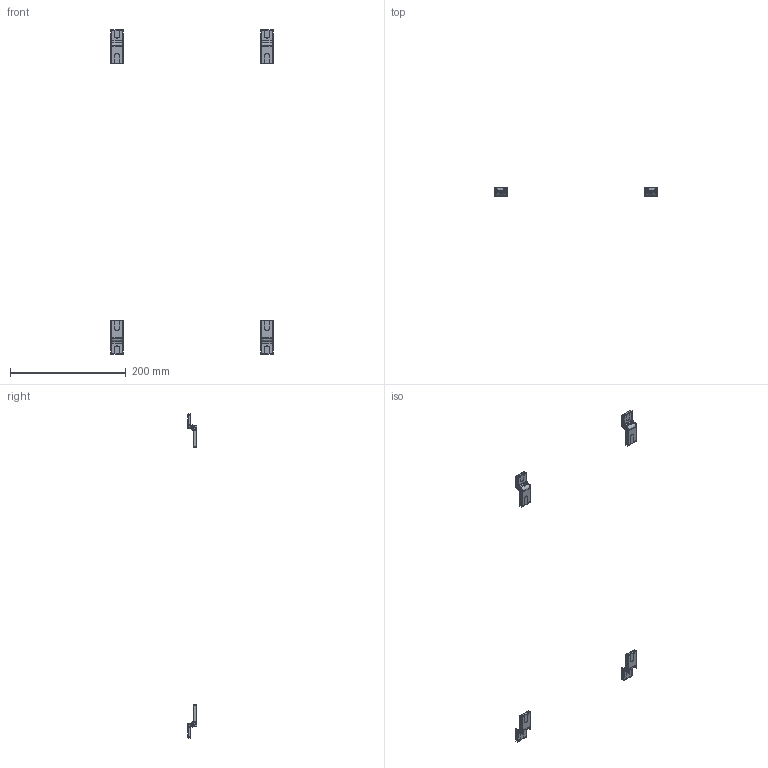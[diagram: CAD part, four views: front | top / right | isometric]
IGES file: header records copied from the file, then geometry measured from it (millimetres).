
Start section:  PTC IGES file: pk-sp4-supplied-mtgs-front.igs
Global section: file name: pk-sp4-supplied-mtgs-front.igs; native system: Pro/ENGINEER by Parametric Technology Corporation; preprocessor: 2005020; author: barlia01; organization: Unknown; date: 060517.160913; units: millimetre
Bounding box: 280.1 x 15.94 x 559.77 mm (x, y, z)
Surface area: 38472.8 mm2 (no closed solid volume)
Topology: 0 solids, 4 shells, 248 faces, 1192 edges, 1416 vertices
Faces by surface type: bspline 248
